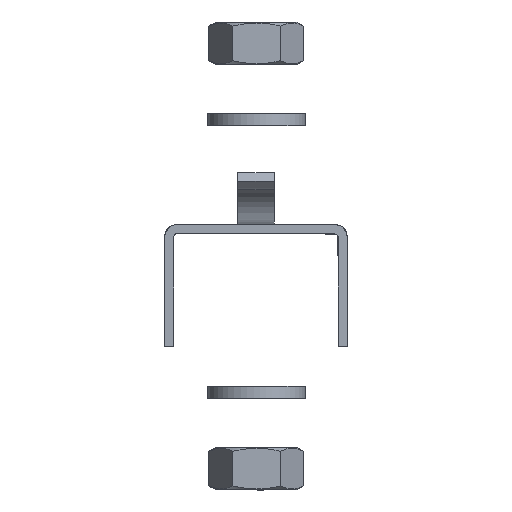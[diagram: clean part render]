
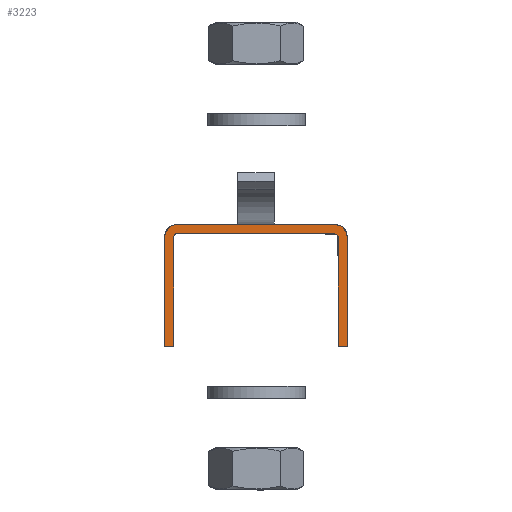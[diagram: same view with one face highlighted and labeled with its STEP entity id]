
A CAD part, front view. The second image highlights one B-rep face of the part: STEP entity #3223.
In plain terms, the highlighted planar face has unit normal (0, -1, 0).
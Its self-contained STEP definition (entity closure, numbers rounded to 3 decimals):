
#873=(
BOUNDED_CURVE()
B_SPLINE_CURVE(2,(#16476,#16477,#16478,#16479,#16480,#16481,#16482,#16483,
#16484,#16485,#16486),.UNSPECIFIED.,.F.,.F.)
B_SPLINE_CURVE_WITH_KNOTS((3,2,2,2,2,3),(-113.5,-95.5,-92.358,
-66.358,-63.217,-45.217),.UNSPECIFIED.)
CURVE()
GEOMETRIC_REPRESENTATION_ITEM()
RATIONAL_B_SPLINE_CURVE((1.,1.,1.,0.707,1.,1.,1.,0.707,
1.,1.,1.))
REPRESENTATION_ITEM($)
);
#874=(
BOUNDED_CURVE()
B_SPLINE_CURVE(2,(#16487,#16488,#16489,#16490,#16491,#16492,#16493,#16494,
#16495),.UNSPECIFIED.,.F.,.F.)
B_SPLINE_CURVE_WITH_KNOTS((3,2,2,2,3),(-160.571,-159.785,
-133.785,-133.,-115.),.UNSPECIFIED.)
CURVE()
GEOMETRIC_REPRESENTATION_ITEM()
RATIONAL_B_SPLINE_CURVE((1.,0.707,1.,1.,1.,0.707,
1.,1.,1.))
REPRESENTATION_ITEM($)
);
#3223=ADVANCED_FACE($,(#3458),#7142,.T.);
#3458=FACE_OUTER_BOUND($,#3709,.T.);
#3709=EDGE_LOOP($,(#4708,#4709,#4710,#4711,#4712));
#4708=ORIENTED_EDGE($,*,*,#5823,.T.);
#4709=ORIENTED_EDGE($,*,*,#5824,.T.);
#4710=ORIENTED_EDGE($,*,*,#5822,.T.);
#4711=ORIENTED_EDGE($,*,*,#5825,.T.);
#4712=ORIENTED_EDGE($,*,*,#5826,.T.);
#5822=EDGE_CURVE($,#6877,#6876,#873,.T.);
#5823=EDGE_CURVE($,#6878,#6879,#874,.T.);
#5824=EDGE_CURVE($,#6879,#6877,#7398,.T.);
#5825=EDGE_CURVE($,#6876,#6880,#7399,.T.);
#5826=EDGE_CURVE($,#6880,#6878,#7400,.T.);
#6876=VERTEX_POINT($,#16503);
#6877=VERTEX_POINT($,#16504);
#6878=VERTEX_POINT($,#16505);
#6879=VERTEX_POINT($,#16506);
#6880=VERTEX_POINT($,#16507);
#7142=PLANE($,#7607);
#7398=B_SPLINE_CURVE_WITH_KNOTS($,1,(#16496,#16497),.UNSPECIFIED.,.F.,.F.,
(2,2),(-115.,-113.5),.UNSPECIFIED.);
#7399=B_SPLINE_CURVE_WITH_KNOTS($,1,(#16498,#16499),.UNSPECIFIED.,.F.,.F.,
(2,2),(-45.217,-43.717),.UNSPECIFIED.);
#7400=B_SPLINE_CURVE_WITH_KNOTS($,1,(#16500,#16501),.UNSPECIFIED.,.F.,.F.,
(2,2),(-43.717,-25.717),.UNSPECIFIED.);
#7607=AXIS2_PLACEMENT_3D($,#16502,#7667,$);
#7667=DIRECTION($,(0.,-1.,0.));
#16476=CARTESIAN_POINT($,(15.,-563.969,-20.));
#16477=CARTESIAN_POINT($,(15.,-563.969,-11.));
#16478=CARTESIAN_POINT($,(15.,-563.969,-2.));
#16479=CARTESIAN_POINT($,(15.,-563.969,0.));
#16480=CARTESIAN_POINT($,(13.,-563.969,0.));
#16481=CARTESIAN_POINT($,(0.,-563.969,0.));
#16482=CARTESIAN_POINT($,(-13.,-563.969,0.));
#16483=CARTESIAN_POINT($,(-15.,-563.969,0.));
#16484=CARTESIAN_POINT($,(-15.,-563.969,-2.));
#16485=CARTESIAN_POINT($,(-15.,-563.969,-11.));
#16486=CARTESIAN_POINT($,(-15.,-563.969,-20.));
#16487=CARTESIAN_POINT($,(-13.5,-563.969,-2.));
#16488=CARTESIAN_POINT($,(-13.5,-563.969,-1.5));
#16489=CARTESIAN_POINT($,(-13.,-563.969,-1.5));
#16490=CARTESIAN_POINT($,(0.,-563.969,-1.5));
#16491=CARTESIAN_POINT($,(13.,-563.969,-1.5));
#16492=CARTESIAN_POINT($,(13.5,-563.969,-1.5));
#16493=CARTESIAN_POINT($,(13.5,-563.969,-2.));
#16494=CARTESIAN_POINT($,(13.5,-563.969,-11.));
#16495=CARTESIAN_POINT($,(13.5,-563.969,-20.));
#16496=CARTESIAN_POINT($,(13.5,-563.969,-20.));
#16497=CARTESIAN_POINT($,(15.,-563.969,-20.));
#16498=CARTESIAN_POINT($,(-15.,-563.969,-20.));
#16499=CARTESIAN_POINT($,(-13.5,-563.969,-20.));
#16500=CARTESIAN_POINT($,(-13.5,-563.969,-20.));
#16501=CARTESIAN_POINT($,(-13.5,-563.969,-2.));
#16502=CARTESIAN_POINT($,(-15.,-563.969,-20.));
#16503=CARTESIAN_POINT($,(-15.,-563.969,-20.));
#16504=CARTESIAN_POINT($,(15.,-563.969,-20.));
#16505=CARTESIAN_POINT($,(-13.5,-563.969,-2.));
#16506=CARTESIAN_POINT($,(13.5,-563.969,-20.));
#16507=CARTESIAN_POINT($,(-13.5,-563.969,-20.));
